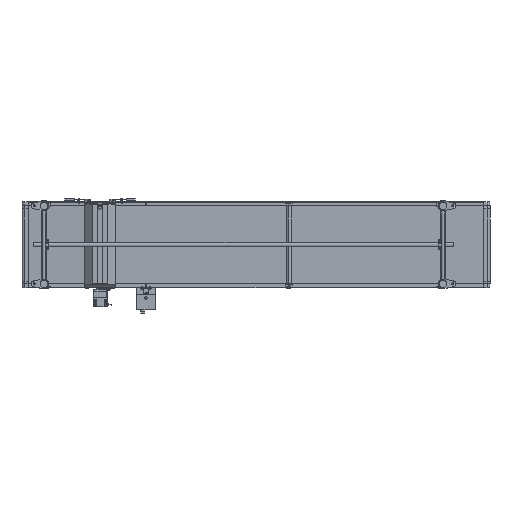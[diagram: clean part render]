
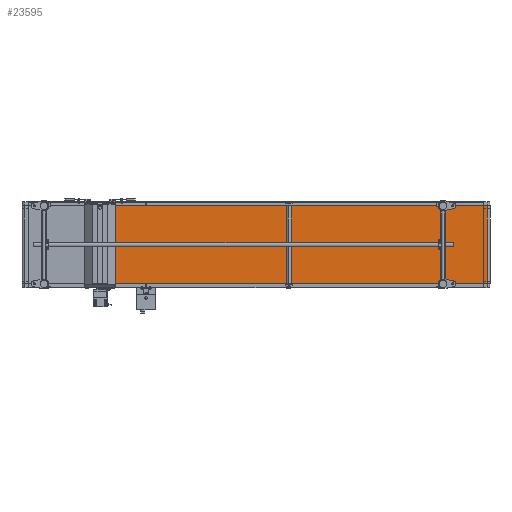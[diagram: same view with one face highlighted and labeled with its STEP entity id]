
A CAD part, front view. The second image highlights one B-rep face of the part: STEP entity #23595.
In plain terms, the highlighted planar face has unit normal (0.008, -1, 0).
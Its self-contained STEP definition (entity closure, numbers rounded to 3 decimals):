
#3054 = AXIS2_PLACEMENT_3D ( 'NONE', #19700, #96642, #38963 ) ;
#7317 = ORIENTED_EDGE ( 'NONE', *, *, #7635, .F. ) ;
#7635 = EDGE_CURVE ( 'NONE', #121796, #54946, #10731, .T. ) ;
#8609 = CARTESIAN_POINT ( 'NONE',  ( 546.701, -53.466, 250. ) ) ;
#10731 = LINE ( 'NONE', #58399, #103856 ) ;
#19700 = CARTESIAN_POINT ( 'NONE',  ( 2983.144, -33.999, 250. ) ) ;
#23595 = ADVANCED_FACE ( 'NONE', ( #73959 ), #67061, .F. ) ;
#28715 = LINE ( 'NONE', #89453, #121926 ) ;
#28918 = VERTEX_POINT ( 'NONE', #112748 ) ;
#33632 = CARTESIAN_POINT ( 'NONE',  ( 546.701, -53.466, 250. ) ) ;
#35658 = ORIENTED_EDGE ( 'NONE', *, *, #112424, .T. ) ;
#38963 = DIRECTION ( 'NONE',  ( -1., -0.008, 0. ) ) ;
#39098 = VERTEX_POINT ( 'NONE', #81966 ) ;
#47444 = VECTOR ( 'NONE', #71630, 1000. ) ;
#47759 = VECTOR ( 'NONE', #81970, 1000. ) ;
#54946 = VERTEX_POINT ( 'NONE', #88214 ) ;
#58399 = CARTESIAN_POINT ( 'NONE',  ( 2983.144, -33.999, 250. ) ) ;
#64425 = ORIENTED_EDGE ( 'NONE', *, *, #94682, .T. ) ;
#67061 = PLANE ( 'NONE',  #3054 ) ;
#71630 = DIRECTION ( 'NONE',  ( 0., 0., -1. ) ) ;
#72895 = CARTESIAN_POINT ( 'NONE',  ( 2983.144, -33.999, 250. ) ) ;
#73255 = LINE ( 'NONE', #33632, #47759 ) ;
#73411 = EDGE_LOOP ( 'NONE', ( #35658, #108563, #7317, #64425 ) ) ;
#73959 = FACE_OUTER_BOUND ( 'NONE', #73411, .T. ) ;
#78447 = DIRECTION ( 'NONE',  ( 1., 0.008, 0. ) ) ;
#81966 = CARTESIAN_POINT ( 'NONE',  ( 546.701, -53.466, -250. ) ) ;
#81970 = DIRECTION ( 'NONE',  ( 0., 0., -1. ) ) ;
#82066 = LINE ( 'NONE', #72895, #47444 ) ;
#88214 = CARTESIAN_POINT ( 'NONE',  ( 2983.144, -33.999, 250. ) ) ;
#88284 = EDGE_CURVE ( 'NONE', #54946, #28918, #82066, .T. ) ;
#89453 = CARTESIAN_POINT ( 'NONE',  ( 2983.144, -33.999, -250. ) ) ;
#94682 = EDGE_CURVE ( 'NONE', #121796, #39098, #73255, .T. ) ;
#96385 = DIRECTION ( 'NONE',  ( 1., 0.008, 0. ) ) ;
#96642 = DIRECTION ( 'NONE',  ( -0.008, 1., 0. ) ) ;
#103856 = VECTOR ( 'NONE', #96385, 1000. ) ;
#108563 = ORIENTED_EDGE ( 'NONE', *, *, #88284, .F. ) ;
#112424 = EDGE_CURVE ( 'NONE', #39098, #28918, #28715, .T. ) ;
#112748 = CARTESIAN_POINT ( 'NONE',  ( 2983.144, -33.999, -250. ) ) ;
#121796 = VERTEX_POINT ( 'NONE', #8609 ) ;
#121926 = VECTOR ( 'NONE', #78447, 1000. ) ;
